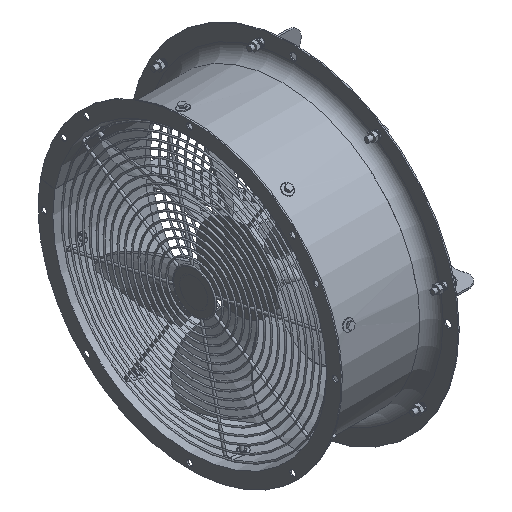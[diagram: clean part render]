
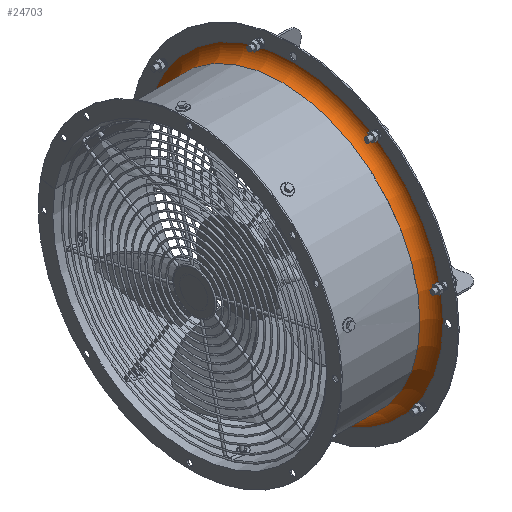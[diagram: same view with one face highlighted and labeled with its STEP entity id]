
A CAD part, isometric view. The second image highlights one B-rep face of the part: STEP entity #24703.
In plain terms, the highlighted toroidal (fillet/blend) face has major radius 257 mm and minor radius 20 mm.
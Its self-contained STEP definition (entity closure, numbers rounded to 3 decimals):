
#170 = CARTESIAN_POINT ( 'NONE',  ( 178., 253.017, 45.069 ) ) ;
#589 = DIRECTION ( 'NONE',  ( 0., 0., -1. ) ) ;
#1371 = VERTEX_POINT ( 'NONE', #170 ) ;
#3095 = AXIS2_PLACEMENT_3D ( 'NONE', #6649, #3359, #9721 ) ;
#3359 = DIRECTION ( 'NONE',  ( 1., 0., 0. ) ) ;
#4339 = CIRCLE ( 'NONE', #30110, 20. ) ;
#4439 = CARTESIAN_POINT ( 'NONE',  ( 158., 233.399, 41.155 ) ) ;
#4731 = CARTESIAN_POINT ( 'NONE',  ( 158., 253.096, 44.628 ) ) ;
#5613 = EDGE_CURVE ( 'NONE', #20938, #30296, #18584, .T. ) ;
#6649 = CARTESIAN_POINT ( 'NONE',  ( 178., 0., 0. ) ) ;
#7710 = EDGE_CURVE ( 'NONE', #1371, #20938, #4339, .T. ) ;
#9453 = VERTEX_POINT ( 'NONE', #19740 ) ;
#9721 = DIRECTION ( 'NONE',  ( 0., 0., -1. ) ) ;
#10506 = DIRECTION ( 'NONE',  ( 0., 0.174, -0.985 ) ) ;
#14167 = CIRCLE ( 'NONE', #17252, 20. ) ;
#14676 = DIRECTION ( 'NONE',  ( 1., 0., 0. ) ) ;
#14707 = EDGE_CURVE ( 'NONE', #1371, #9453, #19009, .T. ) ;
#14947 = AXIS2_PLACEMENT_3D ( 'NONE', #15155, #26850, #589 ) ;
#15155 = CARTESIAN_POINT ( 'NONE',  ( 158., 0., 0. ) ) ;
#17252 = AXIS2_PLACEMENT_3D ( 'NONE', #4731, #10506, #28096 ) ;
#18387 = DIRECTION ( 'NONE',  ( 0., 0.175, -0.985 ) ) ;
#18584 = CIRCLE ( 'NONE', #14947, 237. ) ;
#19009 = CIRCLE ( 'NONE', #3095, 257. ) ;
#19307 = EDGE_LOOP ( 'NONE', ( #31032, #33232, #34847, #23884 ) ) ;
#19740 = CARTESIAN_POINT ( 'NONE',  ( 178., 253.096, 44.628 ) ) ;
#20938 = VERTEX_POINT ( 'NONE', #33713 ) ;
#22516 = TOROIDAL_SURFACE ( 'NONE', #32387, 257., 20. ) ;
#23573 = CARTESIAN_POINT ( 'NONE',  ( 158., 253.017, 45.069 ) ) ;
#23884 = ORIENTED_EDGE ( 'NONE', *, *, #35381, .F. ) ;
#24703 = ADVANCED_FACE ( 'NONE', ( #37892 ), #22516, .F. ) ;
#26850 = DIRECTION ( 'NONE',  ( 1., 0., 0. ) ) ;
#28096 = DIRECTION ( 'NONE',  ( 1., 0., 0. ) ) ;
#29497 = CARTESIAN_POINT ( 'NONE',  ( 158., 0., 0. ) ) ;
#30110 = AXIS2_PLACEMENT_3D ( 'NONE', #23573, #18387, #32438 ) ;
#30296 = VERTEX_POINT ( 'NONE', #4439 ) ;
#31032 = ORIENTED_EDGE ( 'NONE', *, *, #14707, .F. ) ;
#32373 = DIRECTION ( 'NONE',  ( 0., 0., -1. ) ) ;
#32387 = AXIS2_PLACEMENT_3D ( 'NONE', #29497, #14676, #32373 ) ;
#32438 = DIRECTION ( 'NONE',  ( 1., 0., 0. ) ) ;
#33232 = ORIENTED_EDGE ( 'NONE', *, *, #7710, .T. ) ;
#33713 = CARTESIAN_POINT ( 'NONE',  ( 158., 233.327, 41.562 ) ) ;
#34847 = ORIENTED_EDGE ( 'NONE', *, *, #5613, .T. ) ;
#35381 = EDGE_CURVE ( 'NONE', #9453, #30296, #14167, .T. ) ;
#37892 = FACE_OUTER_BOUND ( 'NONE', #19307, .T. ) ;
